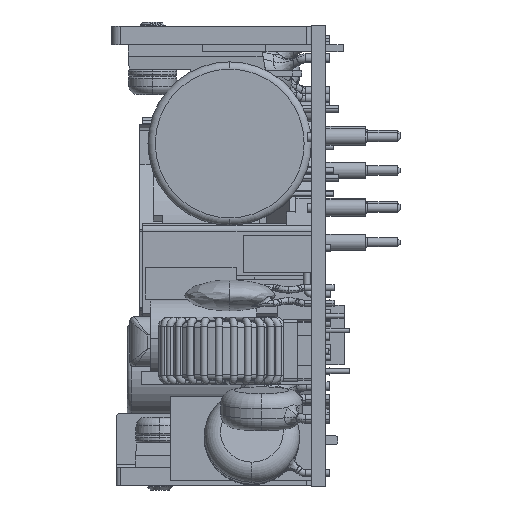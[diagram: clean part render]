
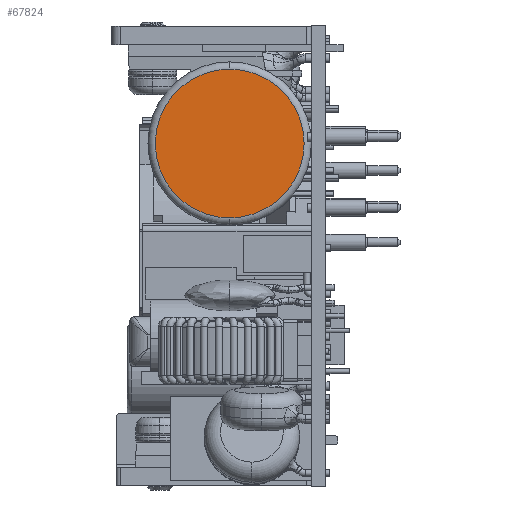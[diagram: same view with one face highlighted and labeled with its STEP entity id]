
A CAD part, left-side view. The second image highlights one B-rep face of the part: STEP entity #67824.
In plain terms, the highlighted planar face has unit normal (-1, 0, 0).
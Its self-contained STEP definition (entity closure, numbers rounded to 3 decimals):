
#3964 = CARTESIAN_POINT ( 'NONE',  ( -27.3, 9., 12.39 ) ) ;
#4070 = EDGE_CURVE ( 'NONE', #59527, #51053, #21049, .T. ) ;
#8882 = DIRECTION ( 'NONE',  ( 1., 0., 0. ) ) ;
#21049 = CIRCLE ( 'NONE', #57458, 8.2 ) ;
#22813 = DIRECTION ( 'NONE',  ( 1., 0., 0. ) ) ;
#27063 = AXIS2_PLACEMENT_3D ( 'NONE', #3964, #49159, #74907 ) ;
#29157 = FACE_OUTER_BOUND ( 'NONE', #64806, .T. ) ;
#34681 = DIRECTION ( 'NONE',  ( 0., 0., -1. ) ) ;
#40115 = CARTESIAN_POINT ( 'NONE',  ( -27.3, 9., 4.19 ) ) ;
#45556 = AXIS2_PLACEMENT_3D ( 'NONE', #80685, #22813, #48609 ) ;
#48609 = DIRECTION ( 'NONE',  ( 0., 0., -1. ) ) ;
#49159 = DIRECTION ( 'NONE',  ( 1., 0., 0. ) ) ;
#51053 = VERTEX_POINT ( 'NONE', #40115 ) ;
#52076 = EDGE_CURVE ( 'NONE', #51053, #59527, #63471, .T. ) ;
#54929 = PLANE ( 'NONE',  #45556 ) ;
#57458 = AXIS2_PLACEMENT_3D ( 'NONE', #66752, #8882, #34681 ) ;
#59527 = VERTEX_POINT ( 'NONE', #82900 ) ;
#63471 = CIRCLE ( 'NONE', #27063, 8.2 ) ;
#64806 = EDGE_LOOP ( 'NONE', ( #78232, #76527 ) ) ;
#66752 = CARTESIAN_POINT ( 'NONE',  ( -27.3, 9., 12.39 ) ) ;
#67824 = ADVANCED_FACE ( 'NONE', ( #29157 ), #54929, .F. ) ;
#74907 = DIRECTION ( 'NONE',  ( 0., 0., -1. ) ) ;
#76527 = ORIENTED_EDGE ( 'NONE', *, *, #4070, .F. ) ;
#78232 = ORIENTED_EDGE ( 'NONE', *, *, #52076, .F. ) ;
#80685 = CARTESIAN_POINT ( 'NONE',  ( -27.3, 9., 20.59 ) ) ;
#82900 = CARTESIAN_POINT ( 'NONE',  ( -27.3, 9., 20.59 ) ) ;
